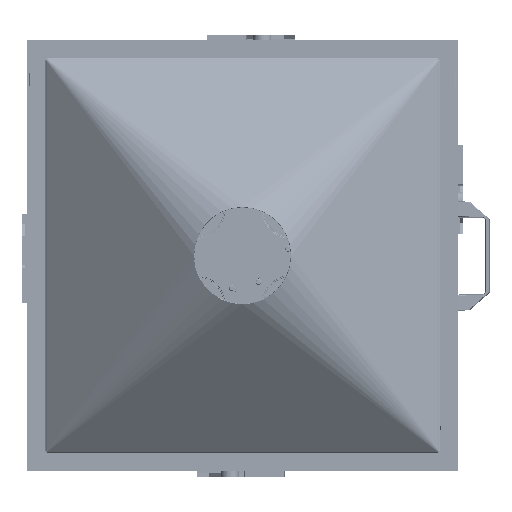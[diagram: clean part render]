
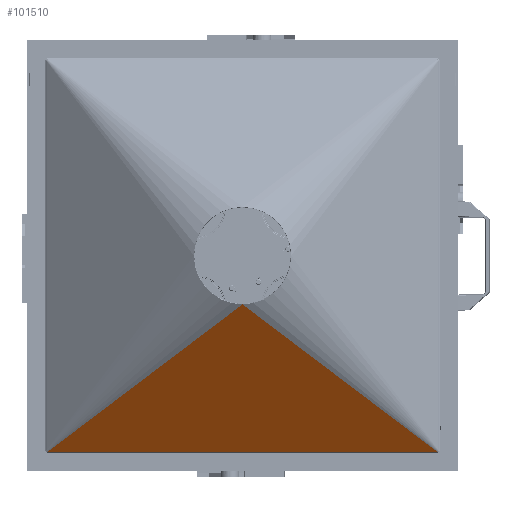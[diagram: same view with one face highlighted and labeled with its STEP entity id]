
A CAD part, left-side view. The second image highlights one B-rep face of the part: STEP entity #101510.
In plain terms, the highlighted planar face has unit normal (-0.796, 0, -0.606).
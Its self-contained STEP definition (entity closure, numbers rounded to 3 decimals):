
#8034=LINE('',#166999,#16541);
#8052=LINE('',#167052,#16559);
#8236=LINE('',#167567,#16743);
#8237=LINE('',#167569,#16744);
#16541=VECTOR('',#132906,10.);
#16559=VECTOR('',#132974,10.);
#16743=VECTOR('',#133586,10.);
#16744=VECTOR('',#133589,10.);
#23061=PLANE('',#110182);
#29472=FACE_OUTER_BOUND('',#36590,.T.);
#36590=EDGE_LOOP('',(#84312,#84313,#84314,#84315));
#49368=VERTEX_POINT('',#166539);
#49428=VERTEX_POINT('',#166996);
#49429=VERTEX_POINT('',#166998);
#49556=VERTEX_POINT('',#167565);
#61295=EDGE_CURVE('',#49429,#49428,#8034,.T.);
#61322=EDGE_CURVE('',#49368,#49429,#8052,.T.);
#61584=EDGE_CURVE('',#49556,#49428,#8236,.T.);
#61585=EDGE_CURVE('',#49368,#49556,#8237,.T.);
#84312=ORIENTED_EDGE('',*,*,#61295,.T.);
#84313=ORIENTED_EDGE('',*,*,#61584,.F.);
#84314=ORIENTED_EDGE('',*,*,#61585,.F.);
#84315=ORIENTED_EDGE('',*,*,#61322,.T.);
#101510=ADVANCED_FACE('',(#29472),#23061,.F.);
#110182=AXIS2_PLACEMENT_3D('',#167568,#133587,#133588);
#132906=DIRECTION('',(0.,-1.,0.));
#132974=DIRECTION('',(0.417,0.725,-0.548));
#133586=DIRECTION('',(0.417,-0.725,-0.548));
#133587=DIRECTION('center_axis',(0.796,0.,0.606));
#133588=DIRECTION('ref_axis',(0.606,0.,-0.796));
#133589=DIRECTION('',(0.,-1.,0.));
#166539=CARTESIAN_POINT('',(-601.449,0.,257.693));
#166996=CARTESIAN_POINT('',(-427.348,-302.478,28.866));
#166998=CARTESIAN_POINT('',(-427.348,302.478,28.866));
#166999=CARTESIAN_POINT('',(-427.348,151.239,28.866));
#167052=CARTESIAN_POINT('',(-601.449,0.,257.693));
#167565=CARTESIAN_POINT('',(-601.449,0.,257.693));
#167567=CARTESIAN_POINT('',(-601.449,0.,257.693));
#167568=CARTESIAN_POINT('Origin',(-601.449,0.,
257.693));
#167569=CARTESIAN_POINT('',(-601.449,0.099,257.693));
